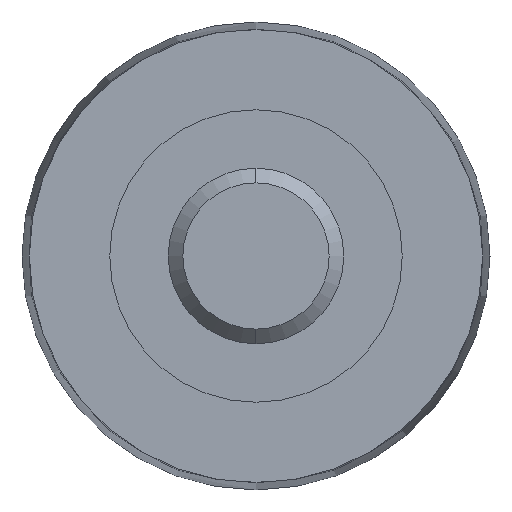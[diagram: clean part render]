
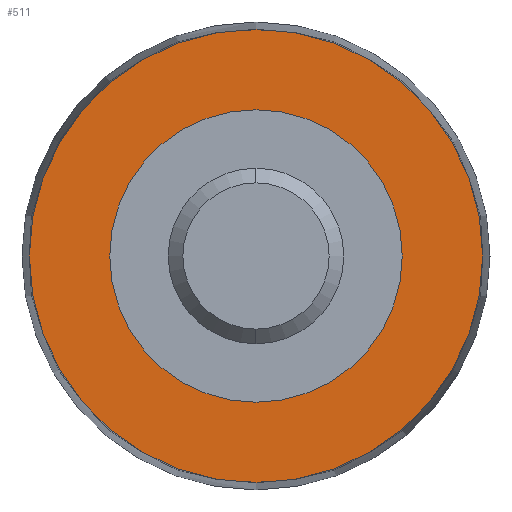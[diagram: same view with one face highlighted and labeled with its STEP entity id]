
A CAD part, left-side view. The second image highlights one B-rep face of the part: STEP entity #511.
In plain terms, the highlighted planar face has unit normal (-1, 0, 0).
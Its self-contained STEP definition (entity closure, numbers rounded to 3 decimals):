
#2 = FACE_BOUND ( 'NONE', #648, .T. ) ;
#5 = AXIS2_PLACEMENT_3D ( 'NONE', #646, #270, #594 ) ;
#20 = EDGE_LOOP ( 'NONE', ( #211, #374 ) ) ;
#22 = DIRECTION ( 'NONE',  ( -1., 0., 0. ) ) ;
#43 = ORIENTED_EDGE ( 'NONE', *, *, #88, .F. ) ;
#58 = AXIS2_PLACEMENT_3D ( 'NONE', #72, #173, #535 ) ;
#72 = CARTESIAN_POINT ( 'NONE',  ( -104., 0., 0. ) ) ;
#79 = VERTEX_POINT ( 'NONE', #178 ) ;
#84 = DIRECTION ( 'NONE',  ( 0., 0., 1. ) ) ;
#88 = EDGE_CURVE ( 'NONE', #167, #207, #482, .T. ) ;
#124 = PLANE ( 'NONE',  #566 ) ;
#138 = EDGE_CURVE ( 'NONE', #79, #294, #249, .T. ) ;
#155 = ORIENTED_EDGE ( 'NONE', *, *, #485, .F. ) ;
#167 = VERTEX_POINT ( 'NONE', #476 ) ;
#170 = CARTESIAN_POINT ( 'NONE',  ( -104., 0., -10. ) ) ;
#173 = DIRECTION ( 'NONE',  ( -1., 0., 0. ) ) ;
#178 = CARTESIAN_POINT ( 'NONE',  ( -104., 0., 15.5 ) ) ;
#191 = AXIS2_PLACEMENT_3D ( 'NONE', #635, #585, #84 ) ;
#207 = VERTEX_POINT ( 'NONE', #170 ) ;
#211 = ORIENTED_EDGE ( 'NONE', *, *, #558, .T. ) ;
#249 = CIRCLE ( 'NONE', #191, 15.5 ) ;
#258 = DIRECTION ( 'NONE',  ( 0., 0., 1. ) ) ;
#270 = DIRECTION ( 'NONE',  ( -1., 0., 0. ) ) ;
#284 = AXIS2_PLACEMENT_3D ( 'NONE', #309, #22, #258 ) ;
#294 = VERTEX_POINT ( 'NONE', #533 ) ;
#309 = CARTESIAN_POINT ( 'NONE',  ( -104., 0., 0. ) ) ;
#368 = DIRECTION ( 'NONE',  ( 1., 0., 0. ) ) ;
#374 = ORIENTED_EDGE ( 'NONE', *, *, #138, .T. ) ;
#406 = CIRCLE ( 'NONE', #284, 10. ) ;
#412 = FACE_OUTER_BOUND ( 'NONE', #20, .T. ) ;
#476 = CARTESIAN_POINT ( 'NONE',  ( -104., 0., 10. ) ) ;
#482 = CIRCLE ( 'NONE', #58, 10. ) ;
#485 = EDGE_CURVE ( 'NONE', #207, #167, #406, .T. ) ;
#511 = ADVANCED_FACE ( 'NONE', ( #2, #412 ), #124, .F. ) ;
#531 = DIRECTION ( 'NONE',  ( 0., 0., -1. ) ) ;
#533 = CARTESIAN_POINT ( 'NONE',  ( -104., 0., -15.5 ) ) ;
#535 = DIRECTION ( 'NONE',  ( 0., 0., 1. ) ) ;
#558 = EDGE_CURVE ( 'NONE', #294, #79, #642, .T. ) ;
#566 = AXIS2_PLACEMENT_3D ( 'NONE', #584, #368, #531 ) ;
#584 = CARTESIAN_POINT ( 'NONE',  ( -104., 10., 0. ) ) ;
#585 = DIRECTION ( 'NONE',  ( -1., 0., 0. ) ) ;
#594 = DIRECTION ( 'NONE',  ( 0., 0., 1. ) ) ;
#635 = CARTESIAN_POINT ( 'NONE',  ( -104., 0., 0. ) ) ;
#642 = CIRCLE ( 'NONE', #5, 15.5 ) ;
#646 = CARTESIAN_POINT ( 'NONE',  ( -104., 0., 0. ) ) ;
#648 = EDGE_LOOP ( 'NONE', ( #43, #155 ) ) ;
